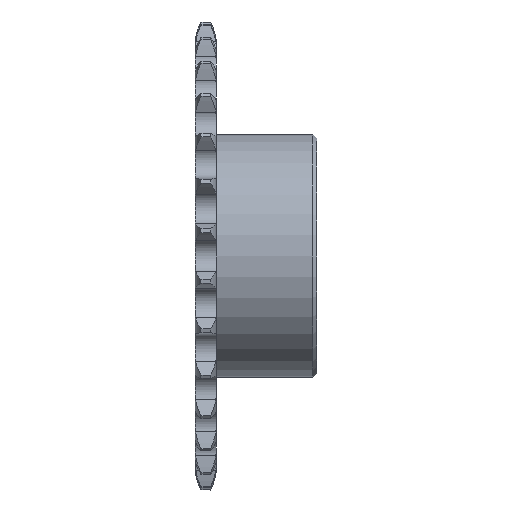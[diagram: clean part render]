
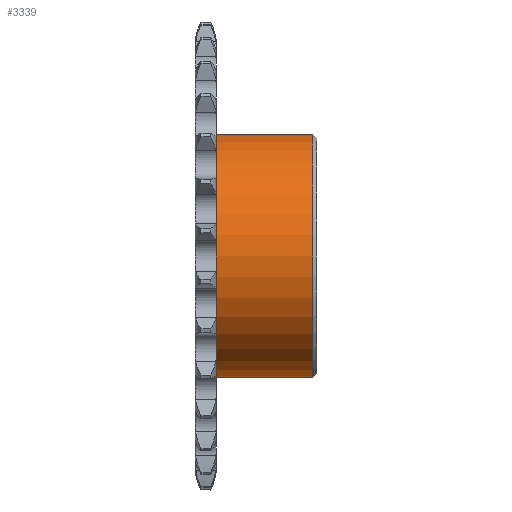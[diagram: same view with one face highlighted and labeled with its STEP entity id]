
A CAD part, front view. The second image highlights one B-rep face of the part: STEP entity #3339.
In plain terms, the highlighted cylindrical face has radius 15 mm (diameter 30 mm), a full revolution.
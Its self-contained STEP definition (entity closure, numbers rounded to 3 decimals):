
#19=FACE_BOUND('',#627,.T.);
#260=CIRCLE('',#3695,15.);
#262=CIRCLE('',#3699,15.);
#443=FACE_OUTER_BOUND('',#626,.T.);
#626=EDGE_LOOP('',(#2975));
#627=EDGE_LOOP('',(#2976));
#1452=VERTEX_POINT('',#6659);
#1453=VERTEX_POINT('',#6664);
#1980=EDGE_CURVE('',#1452,#1452,#260,.T.);
#1982=EDGE_CURVE('',#1453,#1453,#262,.T.);
#2975=ORIENTED_EDGE('',*,*,#1980,.T.);
#2976=ORIENTED_EDGE('',*,*,#1982,.F.);
#3162=CYLINDRICAL_SURFACE('',#3698,15.);
#3339=ADVANCED_FACE('',(#443,#19),#3162,.T.);
#3695=AXIS2_PLACEMENT_3D('',#6660,#4523,#4524);
#3698=AXIS2_PLACEMENT_3D('',#6663,#4529,#4530);
#3699=AXIS2_PLACEMENT_3D('',#6665,#4531,#4532);
#4523=DIRECTION('center_axis',(1.,0.,0.));
#4524=DIRECTION('ref_axis',(0.,0.,-1.));
#4529=DIRECTION('center_axis',(1.,0.,0.));
#4530=DIRECTION('ref_axis',(0.,1.,0.));
#4531=DIRECTION('center_axis',(1.,0.,0.));
#4532=DIRECTION('ref_axis',(0.,0.,-1.));
#6659=CARTESIAN_POINT('',(-3.927,1.838,0.));
#6660=CARTESIAN_POINT('Origin',(-3.927,-13.162,0.));
#6663=CARTESIAN_POINT('Origin',(2.023,-13.162,0.));
#6664=CARTESIAN_POINT('',(7.973,1.838,0.));
#6665=CARTESIAN_POINT('Origin',(7.973,-13.162,0.));
